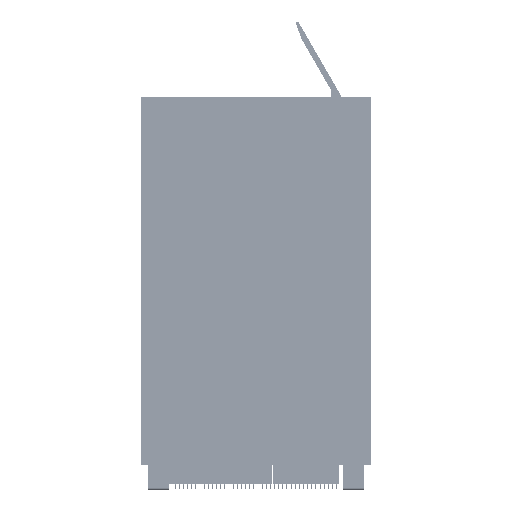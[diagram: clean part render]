
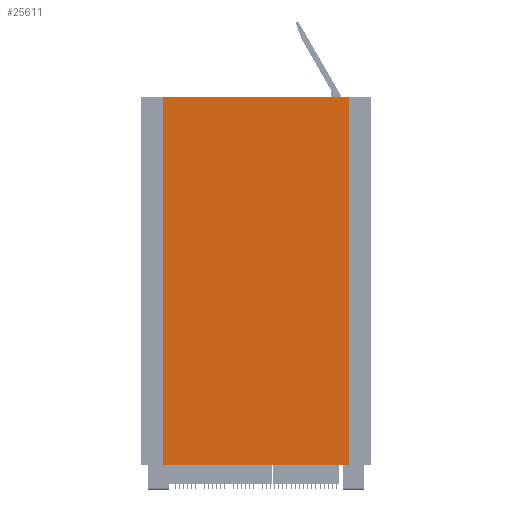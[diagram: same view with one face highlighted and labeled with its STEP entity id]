
A CAD part, front view. The second image highlights one B-rep face of the part: STEP entity #25611.
In plain terms, the highlighted planar face has unit normal (0, -1, 0).
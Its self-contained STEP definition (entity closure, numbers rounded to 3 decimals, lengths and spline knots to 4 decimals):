
#25611 = ADVANCED_FACE ( 'NONE', ( #666455 ), #292864, .F. ) ;
#58078 = CARTESIAN_POINT ( 'NONE',  ( 1.5985, -0.755, 0. ) ) ;
#79146 = ORIENTED_EDGE ( 'NONE', *, *, #724630, .F. ) ;
#92033 = EDGE_CURVE ( 'NONE', #486956, #412747, #630866, .T. ) ;
#114238 = ORIENTED_EDGE ( 'NONE', *, *, #472395, .F. ) ;
#120773 = VECTOR ( 'NONE', #532255, 39.3701 ) ;
#127296 = DIRECTION ( 'NONE',  ( 0., 0., 1. ) ) ;
#174946 = VECTOR ( 'NONE', #703564, 39.3701 ) ;
#237858 = DIRECTION ( 'NONE',  ( 0., 1., 0. ) ) ;
#239525 = VECTOR ( 'NONE', #127296, 39.3701 ) ;
#244879 = EDGE_LOOP ( 'NONE', ( #248850, #114238, #79146, #294344 ) ) ;
#247353 = CARTESIAN_POINT ( 'NONE',  ( 0., -0.755, 0. ) ) ;
#248850 = ORIENTED_EDGE ( 'NONE', *, *, #267480, .T. ) ;
#257229 = CARTESIAN_POINT ( 'NONE',  ( -1.5985, -0.755, 0. ) ) ;
#267480 = EDGE_CURVE ( 'NONE', #412747, #378725, #272812, .T. ) ;
#272812 = LINE ( 'NONE', #247353, #120773 ) ;
#292864 = PLANE ( 'NONE',  #727098 ) ;
#294344 = ORIENTED_EDGE ( 'NONE', *, *, #92033, .T. ) ;
#340750 = CARTESIAN_POINT ( 'NONE',  ( -1.5985, -0.755, -6.2992 ) ) ;
#361051 = CARTESIAN_POINT ( 'NONE',  ( 1.5985, -0.755, -6.2992 ) ) ;
#378725 = VERTEX_POINT ( 'NONE', #257229 ) ;
#380888 = VECTOR ( 'NONE', #645241, 39.3701 ) ;
#412747 = VERTEX_POINT ( 'NONE', #58078 ) ;
#450560 = VERTEX_POINT ( 'NONE', #340750 ) ;
#472395 = EDGE_CURVE ( 'NONE', #450560, #378725, #543590, .T. ) ;
#474437 = CARTESIAN_POINT ( 'NONE',  ( 1.5985, -0.755, -6.2992 ) ) ;
#486956 = VERTEX_POINT ( 'NONE', #474437 ) ;
#527145 = CARTESIAN_POINT ( 'NONE',  ( -1.5985, -0.755, -6.2992 ) ) ;
#530448 = CARTESIAN_POINT ( 'NONE',  ( 0., -0.755, -6.2992 ) ) ;
#532255 = DIRECTION ( 'NONE',  ( -1., 0., 0. ) ) ;
#543590 = LINE ( 'NONE', #527145, #239525 ) ;
#580222 = CARTESIAN_POINT ( 'NONE',  ( 0., -0.755, -6.2992 ) ) ;
#630866 = LINE ( 'NONE', #361051, #174946 ) ;
#637523 = DIRECTION ( 'NONE',  ( -1., 0., 0. ) ) ;
#645241 = DIRECTION ( 'NONE',  ( -1., 0., 0. ) ) ;
#648973 = LINE ( 'NONE', #530448, #380888 ) ;
#666455 = FACE_OUTER_BOUND ( 'NONE', #244879, .T. ) ;
#703564 = DIRECTION ( 'NONE',  ( 0., 0., 1. ) ) ;
#724630 = EDGE_CURVE ( 'NONE', #486956, #450560, #648973, .T. ) ;
#727098 = AXIS2_PLACEMENT_3D ( 'NONE', #580222, #237858, #637523 ) ;
